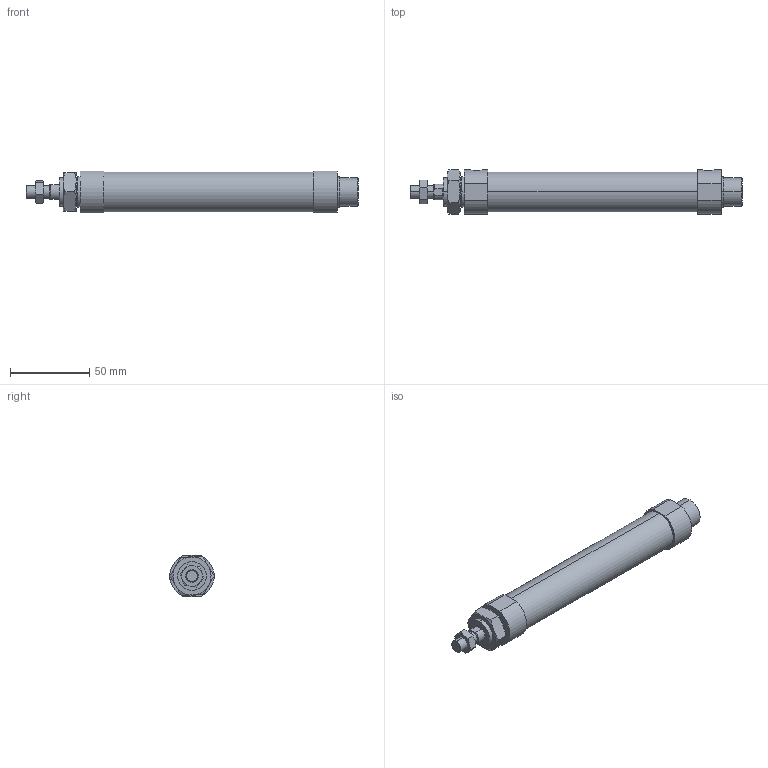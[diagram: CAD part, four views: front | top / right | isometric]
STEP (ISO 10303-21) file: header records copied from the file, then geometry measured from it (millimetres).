
FILE_DESCRIPTION (( 'STEP AP203' ), '1' );
FILE_NAME ('J#2-20-100-N.STEP', '2016-03-08T07:02:31', ( '' ), ( '' ), 'SwSTEP 2.0', 'SolidWorks 2014', '' );
FILE_SCHEMA (( 'CONFIG_CONTROL_DESIGN' ));
Length unit declared in the file: millimetre
Products named in the file (4): J#2-20-100-N; J#2-20-100
Assembly tree (3 placements, depth 2):
  J#2-20-100-N
    J#2-20-100
    (unnamed)
    (unnamed)
Bounding box: 209 x 28 x 26 mm (x, y, z)
Volume: 92024.1 mm3; surface area: 19295.9 mm2
Topology: 3 solids, 3 shells, 92 faces, 198 edges, 122 vertices
Faces by surface type: plane 36, cylinder 26, torus 24, cone 6
Entity records: 3250 total; most frequent: CARTESIAN_POINT 874, DIRECTION 420, ORIENTED_EDGE 396, EDGE_CURVE 198, AXIS2_PLACEMENT_3D 180, VERTEX_POINT 122, EDGE_LOOP 106, FACE_OUTER_BOUND 92
